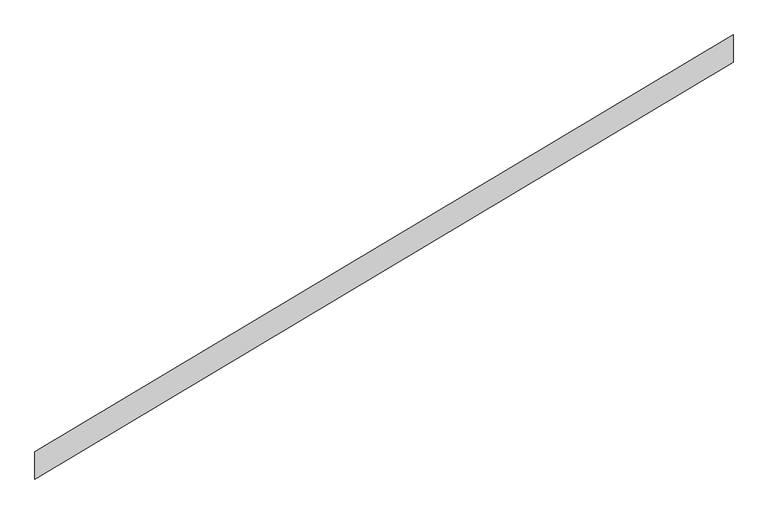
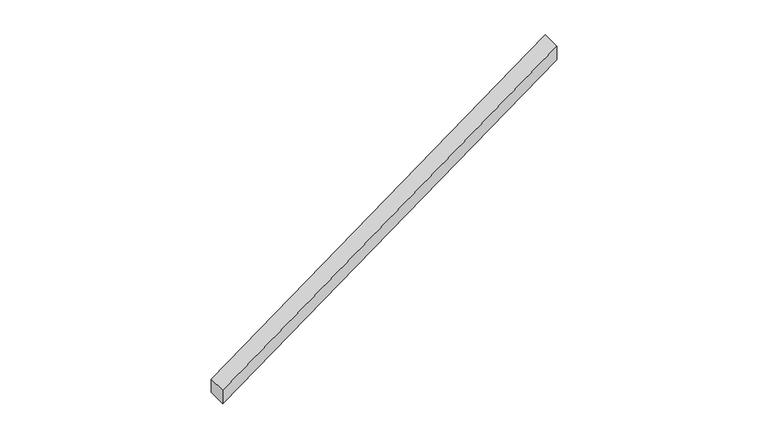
"""IFC4 building model written with IfcOpenShell, lengths in millimetres: proxy geometry, Modelos genéricos 259 : Modelos genéricos 259."""

from ifc_helpers import new_model, si_unit, frame, origin, place, context, project, spatial, polyline, outline, extrude, source, transform, mapped, element, save


def generic_models_44bb2ba4(model_context):
    return source(origin(), model_context, "Body", "SweptSolid", [
        extrude(outline(polyline([(-9026.5527533, 5940.1777154), (-12616.5527533, 3793.6238165), (-12616.5527533, 3933.4387696), (-9026.5527533, 6079.9926685), (-9026.5527533, 5940.1777154)])), frame((0.0, 0.0, 3000.0), z_axis=(0.0, 0.0, 1.0), x_axis=(1.0, 0.0, 0.0)), (0.0, 0.0, 1.0), 100.0),
    ])


if __name__ == "__main__":
    model = new_model("IFC4")
    model_context = context("Model", 3, world=origin())
    ifc_project = project(units=[si_unit("LENGTHUNIT", "METRE", prefix="MILLI")], contexts=[model_context])
    site = spatial("IfcSite", under=ifc_project)
    building = spatial("IfcBuilding", under=site)
    placement = place(None, origin())
    generic_models_shape = generic_models_44bb2ba4(model_context)
    element("IfcBuildingElementProxy", 1, Name="Modelos genéricos 259 : Modelos genéricos 259", ObjectType="Modelos genéricos 259 : Modelos genéricos 259", at=placement, inside=building, context=model_context, shape_type="MappedRepresentation", body=[
        mapped(generic_models_shape, transform((0.0, 0.0, 0.0), x_axis=(1.0, 0.0, 0.0), y_axis=(0.0, 1.0, 0.0), z_axis=(0.0, 0.0, 1.0))),
    ])
    save(model, "model.ifc")
